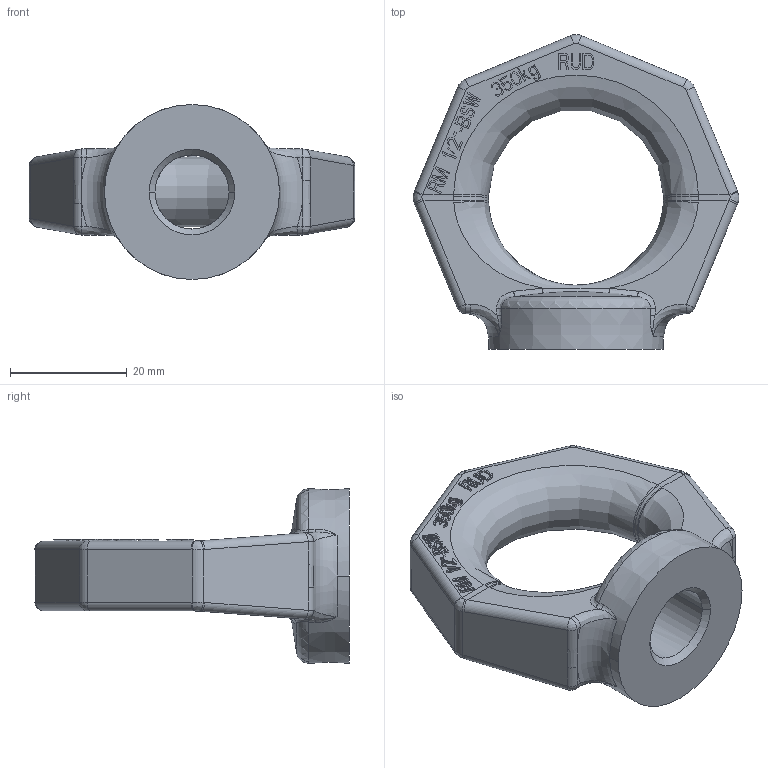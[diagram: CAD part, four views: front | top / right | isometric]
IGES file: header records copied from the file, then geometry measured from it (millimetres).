
Start section:  PTC IGES file: rm-1_2-bsw-001-m31735-p-3.igs
Global section: file name: rm-1_2-bsw-001-m31735-p-3.igs; native system: Pro/ENGINEER by Parametric Technology Corporation; preprocessor: 2011490; author: Roland.Jakubetz; organization: Unknown; date: 20180821.134924; units: millimetre
Bounding box: 55.87 x 53.93 x 30 mm (x, y, z)
Volume: 19994.7 mm3; surface area: 6895.6 mm2
Topology: 1 solids, 1 shells, 635 faces, 1750 edges, 1140 vertices
Faces by surface type: bspline 581, revolution 54
